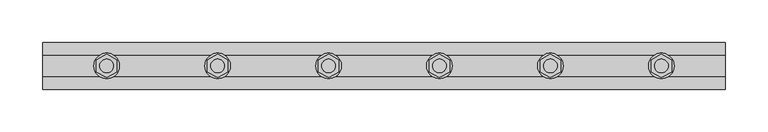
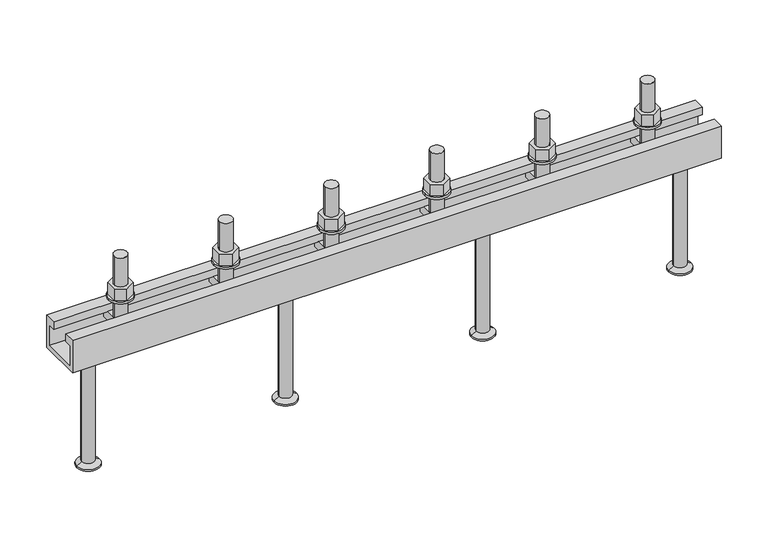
"""IFC4 building model written with IfcOpenShell, lengths in millimetres: fastener geometry, JTA-W JORDAHL® AnchorChannels : JTA-W L=800 mm."""

from ifc_helpers import new_model, si_unit, point, frame, frame_2d, origin, place, context, project, spatial, polyline, circle_curve, trimmed, segment, composite_curve, outline, extrude, source, transform, mapped, element, save
from ifc_brep_helpers import plane_surface, cylinder_surface, revolved_surface, advanced_brep


def fastener_ce59bcd4(model_context):
    return source(origin(), model_context, "Body", "SolidModel", [
        extrude(outline(polyline([(595.0, -13.8564065), (583.0, -6.9282032), (583.0, 6.9282032), (595.0, 13.8564065), (607.0, 6.9282032), (607.0, -6.9282032), (595.0, -13.8564065)]), holes=[composite_curve([segment(trimmed(circle_curve(frame_2d((595.0, 0.0)), 8.0), [point((587.0, 0.0))], [point((603.0, 0.0))], True, "CARTESIAN"), True, "CONTINUOUS"), segment(trimmed(circle_curve(frame_2d((595.0, 0.0)), 8.0), [point((603.0, 0.0))], [point((587.0, 0.0))], True, "CARTESIAN"), True, "CONTINUOUS")], self_intersect=False)]), frame((0.0, 0.0, 18.0), z_axis=(0.0, 0.0, 1.0), x_axis=(1.0, 0.0, 0.0)), (0.0, 0.0, 1.0), 14.8),
        extrude(outline(composite_curve([segment(trimmed(circle_curve(frame_2d((595.0, 0.0)), 15.0), [point((580.0, 0.0))], [point((610.0, 0.0))], False, "CARTESIAN"), True, "CONTINUOUS"), segment(trimmed(circle_curve(frame_2d((595.0, 0.0)), 15.0), [point((610.0, 0.0))], [point((580.0, 0.0))], False, "CARTESIAN"), True, "CONTINUOUS")], self_intersect=False), holes=[composite_curve([segment(trimmed(circle_curve(frame_2d((595.0, 0.0)), 8.5), [point((586.5, 0.0))], [point((603.5, 0.0))], True, "CARTESIAN"), True, "CONTINUOUS"), segment(trimmed(circle_curve(frame_2d((595.0, 0.0)), 8.5), [point((603.5, 0.0))], [point((586.5, 0.0))], True, "CARTESIAN"), True, "CONTINUOUS")], self_intersect=False)]), frame((0.0, 0.0, 15.0), z_axis=(0.0, 0.0, 1.0), x_axis=(1.0, 0.0, 0.0)), (0.0, 0.0, 1.0), 3.0),
        extrude(outline(polyline([(465.0, -13.8564065), (453.0, -6.9282032), (453.0, 6.9282032), (465.0, 13.8564065), (477.0, 6.9282032), (477.0, -6.9282032), (465.0, -13.8564065)]), holes=[composite_curve([segment(trimmed(circle_curve(frame_2d((465.0, 0.0)), 8.0), [point((457.0, 0.0))], [point((473.0, 0.0))], True, "CARTESIAN"), True, "CONTINUOUS"), segment(trimmed(circle_curve(frame_2d((465.0, 0.0)), 8.0), [point((473.0, 0.0))], [point((457.0, 0.0))], True, "CARTESIAN"), True, "CONTINUOUS")], self_intersect=False)]), frame((0.0, 0.0, 18.0), z_axis=(0.0, 0.0, 1.0), x_axis=(1.0, 0.0, 0.0)), (0.0, 0.0, 1.0), 14.8),
        extrude(outline(composite_curve([segment(trimmed(circle_curve(frame_2d((465.0, 0.0)), 15.0), [point((450.0, 0.0))], [point((480.0, 0.0))], False, "CARTESIAN"), True, "CONTINUOUS"), segment(trimmed(circle_curve(frame_2d((465.0, 0.0)), 15.0), [point((480.0, 0.0))], [point((450.0, 0.0))], False, "CARTESIAN"), True, "CONTINUOUS")], self_intersect=False), holes=[composite_curve([segment(trimmed(circle_curve(frame_2d((465.0, 0.0)), 8.5), [point((456.5, 0.0))], [point((473.5, 0.0))], True, "CARTESIAN"), True, "CONTINUOUS"), segment(trimmed(circle_curve(frame_2d((465.0, 0.0)), 8.5), [point((473.5, 0.0))], [point((456.5, 0.0))], True, "CARTESIAN"), True, "CONTINUOUS")], self_intersect=False)]), frame((0.0, 0.0, 15.0), z_axis=(0.0, 0.0, 1.0), x_axis=(1.0, 0.0, 0.0)), (0.0, 0.0, 1.0), 3.0),
        extrude(outline(polyline([(335.0, -13.8564065), (323.0, -6.9282032), (323.0, 6.9282032), (335.0, 13.8564065), (347.0, 6.9282032), (347.0, -6.9282032), (335.0, -13.8564065)]), holes=[composite_curve([segment(trimmed(circle_curve(frame_2d((335.0, 0.0)), 8.0), [point((327.0, 0.0))], [point((343.0, 0.0))], True, "CARTESIAN"), True, "CONTINUOUS"), segment(trimmed(circle_curve(frame_2d((335.0, 0.0)), 8.0), [point((343.0, 0.0))], [point((327.0, 0.0))], True, "CARTESIAN"), True, "CONTINUOUS")], self_intersect=False)]), frame((0.0, 0.0, 18.0), z_axis=(0.0, 0.0, 1.0), x_axis=(1.0, 0.0, 0.0)), (0.0, 0.0, 1.0), 14.8),
        extrude(outline(composite_curve([segment(trimmed(circle_curve(frame_2d((335.0, 0.0)), 15.0), [point((320.0, 0.0))], [point((350.0, 0.0))], False, "CARTESIAN"), True, "CONTINUOUS"), segment(trimmed(circle_curve(frame_2d((335.0, 0.0)), 15.0), [point((350.0, 0.0))], [point((320.0, 0.0))], False, "CARTESIAN"), True, "CONTINUOUS")], self_intersect=False), holes=[composite_curve([segment(trimmed(circle_curve(frame_2d((335.0, 0.0)), 8.5), [point((326.5, 0.0))], [point((343.5, 0.0))], True, "CARTESIAN"), True, "CONTINUOUS"), segment(trimmed(circle_curve(frame_2d((335.0, 0.0)), 8.5), [point((343.5, 0.0))], [point((326.5, 0.0))], True, "CARTESIAN"), True, "CONTINUOUS")], self_intersect=False)]), frame((0.0, 0.0, 15.0), z_axis=(0.0, 0.0, 1.0), x_axis=(1.0, 0.0, 0.0)), (0.0, 0.0, 1.0), 3.0),
        extrude(outline(polyline([(205.0, -13.8564065), (193.0, -6.9282032), (193.0, 6.9282032), (205.0, 13.8564065), (217.0, 6.9282032), (217.0, -6.9282032), (205.0, -13.8564065)]), holes=[composite_curve([segment(trimmed(circle_curve(frame_2d((205.0, 0.0)), 8.0), [point((197.0, 0.0))], [point((213.0, 0.0))], True, "CARTESIAN"), True, "CONTINUOUS"), segment(trimmed(circle_curve(frame_2d((205.0, 0.0)), 8.0), [point((213.0, 0.0))], [point((197.0, 0.0))], True, "CARTESIAN"), True, "CONTINUOUS")], self_intersect=False)]), frame((0.0, 0.0, 18.0), z_axis=(0.0, 0.0, 1.0), x_axis=(1.0, 0.0, 0.0)), (0.0, 0.0, 1.0), 14.8),
        extrude(outline(composite_curve([segment(trimmed(circle_curve(frame_2d((205.0, 0.0)), 15.0), [point((190.0, 0.0))], [point((220.0, 0.0))], False, "CARTESIAN"), True, "CONTINUOUS"), segment(trimmed(circle_curve(frame_2d((205.0, 0.0)), 15.0), [point((220.0, 0.0))], [point((190.0, 0.0))], False, "CARTESIAN"), True, "CONTINUOUS")], self_intersect=False), holes=[composite_curve([segment(trimmed(circle_curve(frame_2d((205.0, 0.0)), 8.5), [point((196.5, 0.0))], [point((213.5, 0.0))], True, "CARTESIAN"), True, "CONTINUOUS"), segment(trimmed(circle_curve(frame_2d((205.0, 0.0)), 8.5), [point((213.5, 0.0))], [point((196.5, 0.0))], True, "CARTESIAN"), True, "CONTINUOUS")], self_intersect=False)]), frame((0.0, 0.0, 15.0), z_axis=(0.0, 0.0, 1.0), x_axis=(1.0, 0.0, 0.0)), (0.0, 0.0, 1.0), 3.0),
        advanced_brep(
        [(603.5, -20.7, -10.0), (603.5, -20.7, -21.0), (603.5, 20.7, -21.0), (603.5, 20.7, -10.0), (586.5, -20.7, -10.0), (586.5, 20.7, -10.0), (586.5, 20.7, -21.0), (586.5, -20.7, -21.0), (603.0, 0.0, -10.0), (587.0, 0.0, -10.0), (587.0, 0.0, 70.0), (603.0, 0.0, 70.0)],
        [
            (0, 1),
            (1, 2),
            (2, 3),
            (3, 0),
            (4, 5),
            (5, 6),
            (6, 7),
            (7, 4),
            (3, 5),
            (4, 0),
            (8, 9, circle_curve(frame((595.0, 0.0, -10.0), z_axis=(0.0, 0.0, -1.0), x_axis=(1.0, 0.0, 0.0)), 8.0)),
            (9, 8, circle_curve(frame((595.0, 0.0, -10.0), z_axis=(0.0, 0.0, -1.0), x_axis=(1.0, 0.0, 0.0)), 8.0)),
            (2, 6),
            (1, 7),
            (10, 11, circle_curve(frame((595.0, 0.0, 70.0), z_axis=(0.0, 0.0, 1.0), x_axis=(1.0, 0.0, 0.0)), 8.0)),
            (11, 10, circle_curve(frame((595.0, 0.0, 70.0), z_axis=(0.0, 0.0, 1.0), x_axis=(1.0, 0.0, 0.0)), 8.0)),
            (11, 8),
            (9, 10),
        ],
        [
            plane_surface(frame((603.5, 20.7, -10.0), z_axis=(1.0, 0.0, 0.0), x_axis=(0.0, 1.0, 0.0))),
            plane_surface(frame((586.5, 20.7, -10.0), z_axis=(-1.0, 0.0, 0.0), x_axis=(0.0, -1.0, 0.0))),
            plane_surface(frame((603.5, -20.7, -10.0), z_axis=(0.0, 0.0, 1.0), x_axis=(-1.0, 0.0, 0.0))),
            plane_surface(frame((603.5, 20.7, -10.0), z_axis=(0.0, 1.0, 0.0), x_axis=(-1.0, 0.0, 0.0))),
            plane_surface(frame((603.5, 20.7, -21.0), z_axis=(0.0, 0.0, -1.0), x_axis=(-1.0, 0.0, 0.0))),
            plane_surface(frame((603.5, -20.7, -21.0), z_axis=(0.0, -1.0, 0.0), x_axis=(-1.0, 0.0, 0.0))),
            plane_surface(frame((603.0, 0.0, 70.0), z_axis=(0.0, 0.0, 1.0), x_axis=(0.0, -1.0, 0.0))),
            cylinder_surface(frame((595.0, 0.0, -10.0), z_axis=(0.0, 0.0, 1.0), x_axis=(1.0, 0.0, 0.0)), 8.0),
        ],
        [
            (0, [[1, 2, 3, 4]]),
            (1, [[5, 6, 7, 8]]),
            (2, [[9, -5, 10, -4], [11, 12]]),
            (3, [[13, -6, -9, -3]]),
            (4, [[14, -7, -13, -2]]),
            (5, [[-10, -8, -14, -1]]),
            (6, [[15, 16]]),
            (7, [[17, -12, 18, -16]]),
            (7, [[-18, -11, -17, -15]]),
        ],
    ),
        advanced_brep(
        [(473.5, -20.7, -10.0), (473.5, -20.7, -21.0), (473.5, 20.7, -21.0), (473.5, 20.7, -10.0), (456.5, -20.7, -10.0), (456.5, 20.7, -10.0), (456.5, 20.7, -21.0), (456.5, -20.7, -21.0), (473.0, 0.0, -10.0), (457.0, 0.0, -10.0), (457.0, 0.0, 70.0), (473.0, 0.0, 70.0)],
        [
            (0, 1),
            (1, 2),
            (2, 3),
            (3, 0),
            (4, 5),
            (5, 6),
            (6, 7),
            (7, 4),
            (3, 5),
            (4, 0),
            (8, 9, circle_curve(frame((465.0, 0.0, -10.0), z_axis=(0.0, 0.0, -1.0), x_axis=(1.0, 0.0, 0.0)), 8.0)),
            (9, 8, circle_curve(frame((465.0, 0.0, -10.0), z_axis=(0.0, 0.0, -1.0), x_axis=(1.0, 0.0, 0.0)), 8.0)),
            (2, 6),
            (1, 7),
            (10, 11, circle_curve(frame((465.0, 0.0, 70.0), z_axis=(0.0, 0.0, 1.0), x_axis=(1.0, 0.0, 0.0)), 8.0)),
            (11, 10, circle_curve(frame((465.0, 0.0, 70.0), z_axis=(0.0, 0.0, 1.0), x_axis=(1.0, 0.0, 0.0)), 8.0)),
            (11, 8),
            (9, 10),
        ],
        [
            plane_surface(frame((473.5, 20.7, -10.0), z_axis=(1.0, 0.0, 0.0), x_axis=(0.0, 1.0, 0.0))),
            plane_surface(frame((456.5, 20.7, -10.0), z_axis=(-1.0, 0.0, 0.0), x_axis=(0.0, -1.0, 0.0))),
            plane_surface(frame((473.5, -20.7, -10.0), z_axis=(0.0, 0.0, 1.0), x_axis=(-1.0, 0.0, 0.0))),
            plane_surface(frame((473.5, 20.7, -10.0), z_axis=(0.0, 1.0, 0.0), x_axis=(-1.0, 0.0, 0.0))),
            plane_surface(frame((473.5, 20.7, -21.0), z_axis=(0.0, 0.0, -1.0), x_axis=(-1.0, 0.0, 0.0))),
            plane_surface(frame((473.5, -20.7, -21.0), z_axis=(0.0, -1.0, 0.0), x_axis=(-1.0, 0.0, 0.0))),
            plane_surface(frame((473.0, 0.0, 70.0), z_axis=(0.0, 0.0, 1.0), x_axis=(0.0, -1.0, 0.0))),
            cylinder_surface(frame((465.0, 0.0, -10.0), z_axis=(0.0, 0.0, 1.0), x_axis=(1.0, 0.0, 0.0)), 8.0),
        ],
        [
            (0, [[1, 2, 3, 4]]),
            (1, [[5, 6, 7, 8]]),
            (2, [[9, -5, 10, -4], [11, 12]]),
            (3, [[13, -6, -9, -3]]),
            (4, [[14, -7, -13, -2]]),
            (5, [[-10, -8, -14, -1]]),
            (6, [[15, 16]]),
            (7, [[17, -12, 18, -16]]),
            (7, [[-18, -11, -17, -15]]),
        ],
    ),
        advanced_brep(
        [(343.5, -20.7, -10.0), (343.5, -20.7, -21.0), (343.5, 20.7, -21.0), (343.5, 20.7, -10.0), (326.5, -20.7, -10.0), (326.5, 20.7, -10.0), (326.5, 20.7, -21.0), (326.5, -20.7, -21.0), (343.0, 0.0, -10.0), (327.0, 0.0, -10.0), (327.0, 0.0, 70.0), (343.0, 0.0, 70.0)],
        [
            (0, 1),
            (1, 2),
            (2, 3),
            (3, 0),
            (4, 5),
            (5, 6),
            (6, 7),
            (7, 4),
            (3, 5),
            (4, 0),
            (8, 9, circle_curve(frame((335.0, 0.0, -10.0), z_axis=(0.0, 0.0, -1.0), x_axis=(1.0, 0.0, 0.0)), 8.0)),
            (9, 8, circle_curve(frame((335.0, 0.0, -10.0), z_axis=(0.0, 0.0, -1.0), x_axis=(1.0, 0.0, 0.0)), 8.0)),
            (2, 6),
            (1, 7),
            (10, 11, circle_curve(frame((335.0, 0.0, 70.0), z_axis=(0.0, 0.0, 1.0), x_axis=(1.0, 0.0, 0.0)), 8.0)),
            (11, 10, circle_curve(frame((335.0, 0.0, 70.0), z_axis=(0.0, 0.0, 1.0), x_axis=(1.0, 0.0, 0.0)), 8.0)),
            (11, 8),
            (9, 10),
        ],
        [
            plane_surface(frame((343.5, 20.7, -10.0), z_axis=(1.0, 0.0, 0.0), x_axis=(0.0, 1.0, 0.0))),
            plane_surface(frame((326.5, 20.7, -10.0), z_axis=(-1.0, 0.0, 0.0), x_axis=(0.0, -1.0, 0.0))),
            plane_surface(frame((343.5, -20.7, -10.0), z_axis=(0.0, 0.0, 1.0), x_axis=(-1.0, 0.0, 0.0))),
            plane_surface(frame((343.5, 20.7, -10.0), z_axis=(0.0, 1.0, 0.0), x_axis=(-1.0, 0.0, 0.0))),
            plane_surface(frame((343.5, 20.7, -21.0), z_axis=(0.0, 0.0, -1.0), x_axis=(-1.0, 0.0, 0.0))),
            plane_surface(frame((343.5, -20.7, -21.0), z_axis=(0.0, -1.0, 0.0), x_axis=(-1.0, 0.0, 0.0))),
            plane_surface(frame((343.0, 0.0, 70.0), z_axis=(0.0, 0.0, 1.0), x_axis=(0.0, -1.0, 0.0))),
            cylinder_surface(frame((335.0, 0.0, -10.0), z_axis=(0.0, 0.0, 1.0), x_axis=(1.0, 0.0, 0.0)), 8.0),
        ],
        [
            (0, [[1, 2, 3, 4]]),
            (1, [[5, 6, 7, 8]]),
            (2, [[9, -5, 10, -4], [11, 12]]),
            (3, [[13, -6, -9, -3]]),
            (4, [[14, -7, -13, -2]]),
            (5, [[-10, -8, -14, -1]]),
            (6, [[15, 16]]),
            (7, [[17, -12, 18, -16]]),
            (7, [[-18, -11, -17, -15]]),
        ],
    ),
        advanced_brep(
        [(213.5, -20.7, -10.0), (213.5, -20.7, -21.0), (213.5, 20.7, -21.0), (213.5, 20.7, -10.0), (196.5, -20.7, -10.0), (196.5, 20.7, -10.0), (196.5, 20.7, -21.0), (196.5, -20.7, -21.0), (213.0, 0.0, -10.0), (197.0, 0.0, -10.0), (197.0, 0.0, 70.0), (213.0, 0.0, 70.0)],
        [
            (0, 1),
            (1, 2),
            (2, 3),
            (3, 0),
            (4, 5),
            (5, 6),
            (6, 7),
            (7, 4),
            (3, 5),
            (4, 0),
            (8, 9, circle_curve(frame((205.0, 0.0, -10.0), z_axis=(0.0, 0.0, -1.0), x_axis=(1.0, 0.0, 0.0)), 8.0)),
            (9, 8, circle_curve(frame((205.0, 0.0, -10.0), z_axis=(0.0, 0.0, -1.0), x_axis=(1.0, 0.0, 0.0)), 8.0)),
            (2, 6),
            (1, 7),
            (10, 11, circle_curve(frame((205.0, 0.0, 70.0), z_axis=(0.0, 0.0, 1.0), x_axis=(1.0, 0.0, 0.0)), 8.0)),
            (11, 10, circle_curve(frame((205.0, 0.0, 70.0), z_axis=(0.0, 0.0, 1.0), x_axis=(1.0, 0.0, 0.0)), 8.0)),
            (11, 8),
            (9, 10),
        ],
        [
            plane_surface(frame((213.5, 20.7, -10.0), z_axis=(1.0, 0.0, 0.0), x_axis=(0.0, 1.0, 0.0))),
            plane_surface(frame((196.5, 20.7, -10.0), z_axis=(-1.0, 0.0, 0.0), x_axis=(0.0, -1.0, 0.0))),
            plane_surface(frame((213.5, -20.7, -10.0), z_axis=(0.0, 0.0, 1.0), x_axis=(-1.0, 0.0, 0.0))),
            plane_surface(frame((213.5, 20.7, -10.0), z_axis=(0.0, 1.0, 0.0), x_axis=(-1.0, 0.0, 0.0))),
            plane_surface(frame((213.5, 20.7, -21.0), z_axis=(0.0, 0.0, -1.0), x_axis=(-1.0, 0.0, 0.0))),
            plane_surface(frame((213.5, -20.7, -21.0), z_axis=(0.0, -1.0, 0.0), x_axis=(-1.0, 0.0, 0.0))),
            plane_surface(frame((213.0, 0.0, 70.0), z_axis=(0.0, 0.0, 1.0), x_axis=(0.0, -1.0, 0.0))),
            cylinder_surface(frame((205.0, 0.0, -10.0), z_axis=(0.0, 0.0, 1.0), x_axis=(1.0, 0.0, 0.0)), 8.0),
        ],
        [
            (0, [[1, 2, 3, 4]]),
            (1, [[5, 6, 7, 8]]),
            (2, [[9, -5, 10, -4], [11, 12]]),
            (3, [[13, -6, -9, -3]]),
            (4, [[14, -7, -13, -2]]),
            (5, [[-10, -8, -14, -1]]),
            (6, [[15, 16]]),
            (7, [[17, -12, 18, -16]]),
            (7, [[-18, -11, -17, -15]]),
        ],
    ),
        advanced_brep(
        [(521.6666667, 0.0, -42.0), (498.6666667, 0.0, -42.0), (544.6666667, 0.0, -42.0), (507.6666667, 0.0, -190.0), (521.6666667, 0.0, -190.0), (535.6666667, 0.0, -190.0), (507.6666667, 0.0, -188.0), (535.6666667, 0.0, -188.0), (513.8666667, 0.0, -184.4204283), (529.4666667, 0.0, -184.4204283), (513.8666667, 0.0, -46.0), (529.4666667, 0.0, -46.0)],
        [
            (0, 1),
            (1, 2, circle_curve(frame((521.6666667, 0.0, -42.0), z_axis=(0.0, 0.0, 1.0), x_axis=(1.0, 0.0, 0.0)), 23.0)),
            (2, 0),
            (2, 1, circle_curve(frame((521.6666667, 0.0, -42.0), z_axis=(0.0, 0.0, 1.0), x_axis=(1.0, 0.0, 0.0)), 23.0)),
            (3, 4),
            (4, 5),
            (5, 3, circle_curve(frame((521.6666667, 0.0, -190.0), z_axis=(0.0, 0.0, -1.0), x_axis=(1.0, 0.0, 0.0)), 14.0)),
            (3, 5, circle_curve(frame((521.6666667, 0.0, -190.0), z_axis=(0.0, 0.0, -1.0), x_axis=(1.0, 0.0, 0.0)), 14.0)),
            (6, 3),
            (5, 7),
            (7, 6, circle_curve(frame((521.6666667, 0.0, -188.0), z_axis=(0.0, 0.0, -1.0), x_axis=(1.0, 0.0, 0.0)), 14.0)),
            (6, 7, circle_curve(frame((521.6666667, 0.0, -188.0), z_axis=(0.0, 0.0, -1.0), x_axis=(1.0, 0.0, 0.0)), 14.0)),
            (8, 6),
            (7, 9),
            (9, 8, circle_curve(frame((521.6666667, 0.0, -184.4204283), z_axis=(0.0, 0.0, -1.0), x_axis=(1.0, 0.0, 0.0)), 7.8)),
            (8, 9, circle_curve(frame((521.6666667, 0.0, -184.4204283), z_axis=(0.0, 0.0, -1.0), x_axis=(1.0, 0.0, 0.0)), 7.8)),
            (10, 8),
            (9, 11),
            (11, 10, circle_curve(frame((521.6666667, 0.0, -46.0), z_axis=(0.0, 0.0, -1.0), x_axis=(1.0, 0.0, 0.0)), 7.8)),
            (10, 11, circle_curve(frame((521.6666667, 0.0, -46.0), z_axis=(0.0, 0.0, -1.0), x_axis=(1.0, 0.0, 0.0)), 7.8)),
            (1, 10),
            (11, 2),
        ],
        [
            plane_surface(frame((521.6666667, 0.0, -42.0), z_axis=(0.0, 0.0, 1.0), x_axis=(1.0, 0.0, 0.0))),
            plane_surface(frame((521.6666667, 0.0, -190.0), z_axis=(0.0, 0.0, -1.0), x_axis=(1.0, 0.0, 0.0))),
            cylinder_surface(frame((521.6666667, 0.0, 2362.3150031), z_axis=(0.0, 0.0, 1.0), x_axis=(1.0, 0.0, 0.0)), 14.0),
            revolved_surface(polyline([(535.6666667, 0.0, -188.0), (529.4666667, 0.0, -184.4204283)]), (521.6666667, 0.0, 2362.3150031), (0.0, 0.0, 1.0)),
            cylinder_surface(frame((521.6666667, 0.0, 2362.3150031), z_axis=(0.0, 0.0, 1.0), x_axis=(1.0, 0.0, 0.0)), 7.8),
            revolved_surface(polyline([(529.4666667, 0.0, -46.0), (544.6666667, 0.0, -42.0)]), (521.6666667, 0.0, 2362.3150031), (0.0, 0.0, 1.0)),
        ],
        [
            (0, [[1, 2, 3]]),
            (0, [[-3, 4, -1]]),
            (1, [[5, 6, 7]]),
            (1, [[-6, -5, 8]]),
            (2, [[9, -7, 10, 11]]),
            (2, [[-10, -8, -9, 12]]),
            (3, [[13, -11, 14, 15]]),
            (3, [[-14, -12, -13, 16]]),
            (4, [[17, -15, 18, 19]]),
            (4, [[-18, -16, -17, 20]]),
            (5, [[21, -19, 22, -2]]),
            (5, [[-22, -20, -21, -4]]),
        ],
    ),
        advanced_brep(
        [(278.3333333, 0.0, -42.0), (255.3333333, 0.0, -42.0), (301.3333333, 0.0, -42.0), (264.3333333, 0.0, -190.0), (278.3333333, 0.0, -190.0), (292.3333333, 0.0, -190.0), (264.3333333, 0.0, -188.0), (292.3333333, 0.0, -188.0), (270.5333333, 0.0, -184.4204283), (286.1333333, 0.0, -184.4204283), (270.5333333, 0.0, -46.0), (286.1333333, 0.0, -46.0)],
        [
            (0, 1),
            (1, 2, circle_curve(frame((278.3333333, 0.0, -42.0), z_axis=(0.0, 0.0, 1.0), x_axis=(1.0, 0.0, 0.0)), 23.0)),
            (2, 0),
            (2, 1, circle_curve(frame((278.3333333, 0.0, -42.0), z_axis=(0.0, 0.0, 1.0), x_axis=(1.0, 0.0, 0.0)), 23.0)),
            (3, 4),
            (4, 5),
            (5, 3, circle_curve(frame((278.3333333, 0.0, -190.0), z_axis=(0.0, 0.0, -1.0), x_axis=(1.0, 0.0, 0.0)), 14.0)),
            (3, 5, circle_curve(frame((278.3333333, 0.0, -190.0), z_axis=(0.0, 0.0, -1.0), x_axis=(1.0, 0.0, 0.0)), 14.0)),
            (6, 3),
            (5, 7),
            (7, 6, circle_curve(frame((278.3333333, 0.0, -188.0), z_axis=(0.0, 0.0, -1.0), x_axis=(1.0, 0.0, 0.0)), 14.0)),
            (6, 7, circle_curve(frame((278.3333333, 0.0, -188.0), z_axis=(0.0, 0.0, -1.0), x_axis=(1.0, 0.0, 0.0)), 14.0)),
            (8, 6),
            (7, 9),
            (9, 8, circle_curve(frame((278.3333333, 0.0, -184.4204283), z_axis=(0.0, 0.0, -1.0), x_axis=(1.0, 0.0, 0.0)), 7.8)),
            (8, 9, circle_curve(frame((278.3333333, 0.0, -184.4204283), z_axis=(0.0, 0.0, -1.0), x_axis=(1.0, 0.0, 0.0)), 7.8)),
            (10, 8),
            (9, 11),
            (11, 10, circle_curve(frame((278.3333333, 0.0, -46.0), z_axis=(0.0, 0.0, -1.0), x_axis=(1.0, 0.0, 0.0)), 7.8)),
            (10, 11, circle_curve(frame((278.3333333, 0.0, -46.0), z_axis=(0.0, 0.0, -1.0), x_axis=(1.0, 0.0, 0.0)), 7.8)),
            (1, 10),
            (11, 2),
        ],
        [
            plane_surface(frame((278.3333333, 0.0, -42.0), z_axis=(0.0, 0.0, 1.0), x_axis=(1.0, 0.0, 0.0))),
            plane_surface(frame((278.3333333, 0.0, -190.0), z_axis=(0.0, 0.0, -1.0), x_axis=(1.0, 0.0, 0.0))),
            cylinder_surface(frame((278.3333333, 0.0, 2362.3150031), z_axis=(0.0, 0.0, 1.0), x_axis=(1.0, 0.0, 0.0)), 14.0),
            revolved_surface(polyline([(292.3333333, 0.0, -188.0), (286.1333333, 0.0, -184.4204283)]), (278.3333333, 0.0, 2362.3150031), (0.0, 0.0, 1.0)),
            cylinder_surface(frame((278.3333333, 0.0, 2362.3150031), z_axis=(0.0, 0.0, 1.0), x_axis=(1.0, 0.0, 0.0)), 7.8),
            revolved_surface(polyline([(286.1333333, 0.0, -46.0), (301.3333333, 0.0, -42.0)]), (278.3333333, 0.0, 2362.3150031), (0.0, 0.0, 1.0)),
        ],
        [
            (0, [[1, 2, 3]]),
            (0, [[-3, 4, -1]]),
            (1, [[5, 6, 7]]),
            (1, [[-6, -5, 8]]),
            (2, [[9, -7, 10, 11]]),
            (2, [[-10, -8, -9, 12]]),
            (3, [[13, -11, 14, 15]]),
            (3, [[-14, -12, -13, 16]]),
            (4, [[17, -15, 18, 19]]),
            (4, [[-18, -16, -17, 20]]),
            (5, [[21, -19, 22, -2]]),
            (5, [[-22, -20, -21, -4]]),
        ],
    ),
        extrude(outline(polyline([(725.0, -13.8564065), (713.0, -6.9282032), (713.0, 6.9282032), (725.0, 13.8564065), (737.0, 6.9282032), (737.0, -6.9282032), (725.0, -13.8564065)]), holes=[composite_curve([segment(trimmed(circle_curve(frame_2d((725.0, 0.0)), 8.0), [point((717.0, 0.0))], [point((733.0, 0.0))], True, "CARTESIAN"), True, "CONTINUOUS"), segment(trimmed(circle_curve(frame_2d((725.0, 0.0)), 8.0), [point((733.0, 0.0))], [point((717.0, 0.0))], True, "CARTESIAN"), True, "CONTINUOUS")], self_intersect=False)]), frame((0.0, 0.0, 18.0), z_axis=(0.0, 0.0, 1.0), x_axis=(1.0, 0.0, 0.0)), (0.0, 0.0, 1.0), 14.8),
        extrude(outline(composite_curve([segment(trimmed(circle_curve(frame_2d((725.0, 0.0)), 15.0), [point((710.0, 0.0))], [point((740.0, 0.0))], False, "CARTESIAN"), True, "CONTINUOUS"), segment(trimmed(circle_curve(frame_2d((725.0, 0.0)), 15.0), [point((740.0, 0.0))], [point((710.0, 0.0))], False, "CARTESIAN"), True, "CONTINUOUS")], self_intersect=False), holes=[composite_curve([segment(trimmed(circle_curve(frame_2d((725.0, 0.0)), 8.5), [point((716.5, 0.0))], [point((733.5, 0.0))], True, "CARTESIAN"), True, "CONTINUOUS"), segment(trimmed(circle_curve(frame_2d((725.0, 0.0)), 8.5), [point((733.5, 0.0))], [point((716.5, 0.0))], True, "CARTESIAN"), True, "CONTINUOUS")], self_intersect=False)]), frame((0.0, 0.0, 15.0), z_axis=(0.0, 0.0, 1.0), x_axis=(1.0, 0.0, 0.0)), (0.0, 0.0, 1.0), 3.0),
        extrude(outline(polyline([(75.0, -13.8564065), (63.0, -6.9282032), (63.0, 6.9282032), (75.0, 13.8564065), (87.0, 6.9282032), (87.0, -6.9282032), (75.0, -13.8564065)]), holes=[composite_curve([segment(trimmed(circle_curve(frame_2d((75.0, 0.0)), 8.0), [point((67.0, 0.0))], [point((83.0, 0.0))], True, "CARTESIAN"), True, "CONTINUOUS"), segment(trimmed(circle_curve(frame_2d((75.0, 0.0)), 8.0), [point((83.0, 0.0))], [point((67.0, 0.0))], True, "CARTESIAN"), True, "CONTINUOUS")], self_intersect=False)]), frame((0.0, 0.0, 18.0), z_axis=(0.0, 0.0, 1.0), x_axis=(1.0, 0.0, 0.0)), (0.0, 0.0, 1.0), 14.8),
        extrude(outline(composite_curve([segment(trimmed(circle_curve(frame_2d((75.0, 0.0)), 15.0), [point((60.0, 0.0))], [point((90.0, 0.0))], False, "CARTESIAN"), True, "CONTINUOUS"), segment(trimmed(circle_curve(frame_2d((75.0, 0.0)), 15.0), [point((90.0, 0.0))], [point((60.0, 0.0))], False, "CARTESIAN"), True, "CONTINUOUS")], self_intersect=False), holes=[composite_curve([segment(trimmed(circle_curve(frame_2d((75.0, 0.0)), 8.5), [point((66.5, 0.0))], [point((83.5, 0.0))], True, "CARTESIAN"), True, "CONTINUOUS"), segment(trimmed(circle_curve(frame_2d((75.0, 0.0)), 8.5), [point((83.5, 0.0))], [point((66.5, 0.0))], True, "CARTESIAN"), True, "CONTINUOUS")], self_intersect=False)]), frame((0.0, 0.0, 15.0), z_axis=(0.0, 0.0, 1.0), x_axis=(1.0, 0.0, 0.0)), (0.0, 0.0, 1.0), 3.0),
        advanced_brep(
        [(733.5, -20.7, -10.0), (733.5, -20.7, -21.0), (733.5, 20.7, -21.0), (733.5, 20.7, -10.0), (716.5, -20.7, -10.0), (716.5, 20.7, -10.0), (716.5, 20.7, -21.0), (716.5, -20.7, -21.0), (733.0, 0.0, -10.0), (717.0, 0.0, -10.0), (717.0, 0.0, 70.0), (733.0, 0.0, 70.0)],
        [
            (0, 1),
            (1, 2),
            (2, 3),
            (3, 0),
            (4, 5),
            (5, 6),
            (6, 7),
            (7, 4),
            (3, 5),
            (4, 0),
            (8, 9, circle_curve(frame((725.0, 0.0, -10.0), z_axis=(0.0, 0.0, -1.0), x_axis=(1.0, 0.0, 0.0)), 8.0)),
            (9, 8, circle_curve(frame((725.0, 0.0, -10.0), z_axis=(0.0, 0.0, -1.0), x_axis=(1.0, 0.0, 0.0)), 8.0)),
            (2, 6),
            (1, 7),
            (10, 11, circle_curve(frame((725.0, 0.0, 70.0), z_axis=(0.0, 0.0, 1.0), x_axis=(1.0, 0.0, 0.0)), 8.0)),
            (11, 10, circle_curve(frame((725.0, 0.0, 70.0), z_axis=(0.0, 0.0, 1.0), x_axis=(1.0, 0.0, 0.0)), 8.0)),
            (11, 8),
            (9, 10),
        ],
        [
            plane_surface(frame((733.5, 20.7, -10.0), z_axis=(1.0, 0.0, 0.0), x_axis=(0.0, 1.0, 0.0))),
            plane_surface(frame((716.5, 20.7, -10.0), z_axis=(-1.0, 0.0, 0.0), x_axis=(0.0, -1.0, 0.0))),
            plane_surface(frame((733.5, -20.7, -10.0), z_axis=(0.0, 0.0, 1.0), x_axis=(-1.0, 0.0, 0.0))),
            plane_surface(frame((733.5, 20.7, -10.0), z_axis=(0.0, 1.0, 0.0), x_axis=(-1.0, 0.0, 0.0))),
            plane_surface(frame((733.5, 20.7, -21.0), z_axis=(0.0, 0.0, -1.0), x_axis=(-1.0, 0.0, 0.0))),
            plane_surface(frame((733.5, -20.7, -21.0), z_axis=(0.0, -1.0, 0.0), x_axis=(-1.0, 0.0, 0.0))),
            plane_surface(frame((733.0, 0.0, 70.0), z_axis=(0.0, 0.0, 1.0), x_axis=(0.0, -1.0, 0.0))),
            cylinder_surface(frame((725.0, 0.0, -10.0), z_axis=(0.0, 0.0, 1.0), x_axis=(1.0, 0.0, 0.0)), 8.0),
        ],
        [
            (0, [[1, 2, 3, 4]]),
            (1, [[5, 6, 7, 8]]),
            (2, [[9, -5, 10, -4], [11, 12]]),
            (3, [[13, -6, -9, -3]]),
            (4, [[14, -7, -13, -2]]),
            (5, [[-10, -8, -14, -1]]),
            (6, [[15, 16]]),
            (7, [[17, -12, 18, -16]]),
            (7, [[-18, -11, -17, -15]]),
        ],
    ),
        advanced_brep(
        [(83.5, -20.7, -10.0), (83.5, -20.7, -21.0), (83.5, 20.7, -21.0), (83.5, 20.7, -10.0), (66.5, -20.7, -10.0), (66.5, 20.7, -10.0), (66.5, 20.7, -21.0), (66.5, -20.7, -21.0), (83.0, 0.0, -10.0), (67.0, 0.0, -10.0), (67.0, 0.0, 70.0), (83.0, 0.0, 70.0)],
        [
            (0, 1),
            (1, 2),
            (2, 3),
            (3, 0),
            (4, 5),
            (5, 6),
            (6, 7),
            (7, 4),
            (3, 5),
            (4, 0),
            (8, 9, circle_curve(frame((75.0, 0.0, -10.0), z_axis=(0.0, 0.0, -1.0), x_axis=(1.0, 0.0, 0.0)), 8.0)),
            (9, 8, circle_curve(frame((75.0, 0.0, -10.0), z_axis=(0.0, 0.0, -1.0), x_axis=(1.0, 0.0, 0.0)), 8.0)),
            (2, 6),
            (1, 7),
            (10, 11, circle_curve(frame((75.0, 0.0, 70.0), z_axis=(0.0, 0.0, 1.0), x_axis=(1.0, 0.0, 0.0)), 8.0)),
            (11, 10, circle_curve(frame((75.0, 0.0, 70.0), z_axis=(0.0, 0.0, 1.0), x_axis=(1.0, 0.0, 0.0)), 8.0)),
            (11, 8),
            (9, 10),
        ],
        [
            plane_surface(frame((83.5, 20.7, -10.0), z_axis=(1.0, 0.0, 0.0), x_axis=(0.0, 1.0, 0.0))),
            plane_surface(frame((66.5, 20.7, -10.0), z_axis=(-1.0, 0.0, 0.0), x_axis=(0.0, -1.0, 0.0))),
            plane_surface(frame((83.5, -20.7, -10.0), z_axis=(0.0, 0.0, 1.0), x_axis=(-1.0, 0.0, 0.0))),
            plane_surface(frame((83.5, 20.7, -10.0), z_axis=(0.0, 1.0, 0.0), x_axis=(-1.0, 0.0, 0.0))),
            plane_surface(frame((83.5, 20.7, -21.0), z_axis=(0.0, 0.0, -1.0), x_axis=(-1.0, 0.0, 0.0))),
            plane_surface(frame((83.5, -20.7, -21.0), z_axis=(0.0, -1.0, 0.0), x_axis=(-1.0, 0.0, 0.0))),
            plane_surface(frame((83.0, 0.0, 70.0), z_axis=(0.0, 0.0, 1.0), x_axis=(0.0, -1.0, 0.0))),
            cylinder_surface(frame((75.0, 0.0, -10.0), z_axis=(0.0, 0.0, 1.0), x_axis=(1.0, 0.0, 0.0)), 8.0),
        ],
        [
            (0, [[1, 2, 3, 4]]),
            (1, [[5, 6, 7, 8]]),
            (2, [[9, -5, 10, -4], [11, 12]]),
            (3, [[13, -6, -9, -3]]),
            (4, [[14, -7, -13, -2]]),
            (5, [[-10, -8, -14, -1]]),
            (6, [[15, 16]]),
            (7, [[17, -12, 18, -16]]),
            (7, [[-18, -11, -17, -15]]),
        ],
    ),
        advanced_brep(
        [(765.0, 0.0, -42.0), (742.0, 0.0, -42.0), (788.0, 0.0, -42.0), (751.0, 0.0, -190.0), (765.0, 0.0, -190.0), (779.0, 0.0, -190.0), (751.0, 0.0, -188.0), (779.0, 0.0, -188.0), (757.2, 0.0, -184.4204283), (772.8, 0.0, -184.4204283), (757.2, 0.0, -46.0), (772.8, 0.0, -46.0)],
        [
            (0, 1),
            (1, 2, circle_curve(frame((765.0, 0.0, -42.0), z_axis=(0.0, 0.0, 1.0), x_axis=(1.0, 0.0, 0.0)), 23.0)),
            (2, 0),
            (2, 1, circle_curve(frame((765.0, 0.0, -42.0), z_axis=(0.0, 0.0, 1.0), x_axis=(1.0, 0.0, 0.0)), 23.0)),
            (3, 4),
            (4, 5),
            (5, 3, circle_curve(frame((765.0, 0.0, -190.0), z_axis=(0.0, 0.0, -1.0), x_axis=(1.0, 0.0, 0.0)), 14.0)),
            (3, 5, circle_curve(frame((765.0, 0.0, -190.0), z_axis=(0.0, 0.0, -1.0), x_axis=(1.0, 0.0, 0.0)), 14.0)),
            (6, 3),
            (5, 7),
            (7, 6, circle_curve(frame((765.0, 0.0, -188.0), z_axis=(0.0, 0.0, -1.0), x_axis=(1.0, 0.0, 0.0)), 14.0)),
            (6, 7, circle_curve(frame((765.0, 0.0, -188.0), z_axis=(0.0, 0.0, -1.0), x_axis=(1.0, 0.0, 0.0)), 14.0)),
            (8, 6),
            (7, 9),
            (9, 8, circle_curve(frame((765.0, 0.0, -184.4204283), z_axis=(0.0, 0.0, -1.0), x_axis=(1.0, 0.0, 0.0)), 7.8)),
            (8, 9, circle_curve(frame((765.0, 0.0, -184.4204283), z_axis=(0.0, 0.0, -1.0), x_axis=(1.0, 0.0, 0.0)), 7.8)),
            (10, 8),
            (9, 11),
            (11, 10, circle_curve(frame((765.0, 0.0, -46.0), z_axis=(0.0, 0.0, -1.0), x_axis=(1.0, 0.0, 0.0)), 7.8)),
            (10, 11, circle_curve(frame((765.0, 0.0, -46.0), z_axis=(0.0, 0.0, -1.0), x_axis=(1.0, 0.0, 0.0)), 7.8)),
            (1, 10),
            (11, 2),
        ],
        [
            plane_surface(frame((765.0, 0.0, -42.0), z_axis=(0.0, 0.0, 1.0), x_axis=(1.0, 0.0, 0.0))),
            plane_surface(frame((765.0, 0.0, -190.0), z_axis=(0.0, 0.0, -1.0), x_axis=(1.0, 0.0, 0.0))),
            cylinder_surface(frame((765.0, 0.0, 2362.3150031), z_axis=(0.0, 0.0, 1.0), x_axis=(1.0, 0.0, 0.0)), 14.0),
            revolved_surface(polyline([(779.0, 0.0, -188.0), (772.8, 0.0, -184.4204283)]), (765.0, 0.0, 2362.3150031), (0.0, 0.0, 1.0)),
            cylinder_surface(frame((765.0, 0.0, 2362.3150031), z_axis=(0.0, 0.0, 1.0), x_axis=(1.0, 0.0, 0.0)), 7.8),
            revolved_surface(polyline([(772.8, 0.0, -46.0), (788.0, 0.0, -42.0)]), (765.0, 0.0, 2362.3150031), (0.0, 0.0, 1.0)),
        ],
        [
            (0, [[1, 2, 3]]),
            (0, [[-3, 4, -1]]),
            (1, [[5, 6, 7]]),
            (1, [[-6, -5, 8]]),
            (2, [[9, -7, 10, 11]]),
            (2, [[-10, -8, -9, 12]]),
            (3, [[13, -11, 14, 15]]),
            (3, [[-14, -12, -13, 16]]),
            (4, [[17, -15, 18, 19]]),
            (4, [[-18, -16, -17, 20]]),
            (5, [[21, -19, 22, -2]]),
            (5, [[-22, -20, -21, -4]]),
        ],
    ),
        advanced_brep(
        [(35.0, 0.0, -42.0), (12.0, 0.0, -42.0), (58.0, 0.0, -42.0), (21.0, 0.0, -190.0), (35.0, 0.0, -190.0), (49.0, 0.0, -190.0), (21.0, 0.0, -188.0), (49.0, 0.0, -188.0), (27.2, 0.0, -184.4204283), (42.8, 0.0, -184.4204283), (27.2, 0.0, -46.0), (42.8, 0.0, -46.0)],
        [
            (0, 1),
            (1, 2, circle_curve(frame((35.0, 0.0, -42.0), z_axis=(0.0, 0.0, 1.0), x_axis=(1.0, 0.0, 0.0)), 23.0)),
            (2, 0),
            (2, 1, circle_curve(frame((35.0, 0.0, -42.0), z_axis=(0.0, 0.0, 1.0), x_axis=(1.0, 0.0, 0.0)), 23.0)),
            (3, 4),
            (4, 5),
            (5, 3, circle_curve(frame((35.0, 0.0, -190.0), z_axis=(0.0, 0.0, -1.0), x_axis=(1.0, 0.0, 0.0)), 14.0)),
            (3, 5, circle_curve(frame((35.0, 0.0, -190.0), z_axis=(0.0, 0.0, -1.0), x_axis=(1.0, 0.0, 0.0)), 14.0)),
            (6, 3),
            (5, 7),
            (7, 6, circle_curve(frame((35.0, 0.0, -188.0), z_axis=(0.0, 0.0, -1.0), x_axis=(1.0, 0.0, 0.0)), 14.0)),
            (6, 7, circle_curve(frame((35.0, 0.0, -188.0), z_axis=(0.0, 0.0, -1.0), x_axis=(1.0, 0.0, 0.0)), 14.0)),
            (8, 6),
            (7, 9),
            (9, 8, circle_curve(frame((35.0, 0.0, -184.4204283), z_axis=(0.0, 0.0, -1.0), x_axis=(1.0, 0.0, 0.0)), 7.8)),
            (8, 9, circle_curve(frame((35.0, 0.0, -184.4204283), z_axis=(0.0, 0.0, -1.0), x_axis=(1.0, 0.0, 0.0)), 7.8)),
            (10, 8),
            (9, 11),
            (11, 10, circle_curve(frame((35.0, 0.0, -46.0), z_axis=(0.0, 0.0, -1.0), x_axis=(1.0, 0.0, 0.0)), 7.8)),
            (10, 11, circle_curve(frame((35.0, 0.0, -46.0), z_axis=(0.0, 0.0, -1.0), x_axis=(1.0, 0.0, 0.0)), 7.8)),
            (1, 10),
            (11, 2),
        ],
        [
            plane_surface(frame((35.0, 0.0, -42.0), z_axis=(0.0, 0.0, 1.0), x_axis=(1.0, 0.0, 0.0))),
            plane_surface(frame((35.0, 0.0, -190.0), z_axis=(0.0, 0.0, -1.0), x_axis=(1.0, 0.0, 0.0))),
            cylinder_surface(frame((35.0, 0.0, 2362.3150031), z_axis=(0.0, 0.0, 1.0), x_axis=(1.0, 0.0, 0.0)), 14.0),
            revolved_surface(polyline([(49.0, 0.0, -188.0), (42.8, 0.0, -184.4204283)]), (35.0, 0.0, 2362.3150031), (0.0, 0.0, 1.0)),
            cylinder_surface(frame((35.0, 0.0, 2362.3150031), z_axis=(0.0, 0.0, 1.0), x_axis=(1.0, 0.0, 0.0)), 7.8),
            revolved_surface(polyline([(42.8, 0.0, -46.0), (58.0, 0.0, -42.0)]), (35.0, 0.0, 2362.3150031), (0.0, 0.0, 1.0)),
        ],
        [
            (0, [[1, 2, 3]]),
            (0, [[-3, 4, -1]]),
            (1, [[5, 6, 7]]),
            (1, [[-6, -5, 8]]),
            (2, [[9, -7, 10, 11]]),
            (2, [[-10, -8, -9, 12]]),
            (3, [[13, -11, 14, 15]]),
            (3, [[-14, -12, -13, 16]]),
            (4, [[17, -15, 18, 19]]),
            (4, [[-18, -16, -17, 20]]),
            (5, [[21, -19, 22, -2]]),
            (5, [[-22, -20, -21, -4]]),
        ],
    ),
        extrude(outline(polyline([(-27.5, 0.0), (-13.0, 0.0), (-13.0, -10.0), (-22.5, -10.0), (-22.5, -37.0), (22.5, -37.0), (22.5, -10.0), (13.0, -10.0), (13.0, 0.0), (27.5, 0.0), (27.5, -42.0), (-27.5, -42.0), (-27.5, 0.0)])), frame((0.0, 0.0, 0.0), z_axis=(1.0, 0.0, 0.0), x_axis=(0.0, 1.0, 0.0)), (0.0, 0.0, 1.0), 800.0),
    ])


if __name__ == "__main__":
    model = new_model("IFC4")
    model_context = context("Model", 3, world=origin())
    ifc_project = project(units=[si_unit("LENGTHUNIT", "METRE", prefix="MILLI")], contexts=[model_context])
    site = spatial("IfcSite", under=ifc_project)
    building = spatial("IfcBuilding", under=site)
    placement = place(None, origin())
    fastener_shape = fastener_ce59bcd4(model_context)
    element("IfcFastener", 1, ObjectType="JTA-W JORDAHL® AnchorChannels : JTA-W L=800 mm", at=placement, inside=building, context=model_context, shape_type="MappedRepresentation", body=[
        mapped(fastener_shape, transform((0.0, 0.0, 0.0), x_axis=(1.0, 0.0, 0.0), y_axis=(0.0, 1.0, 0.0), z_axis=(0.0, 0.0, 1.0))),
    ])
    save(model, "model.ifc")
